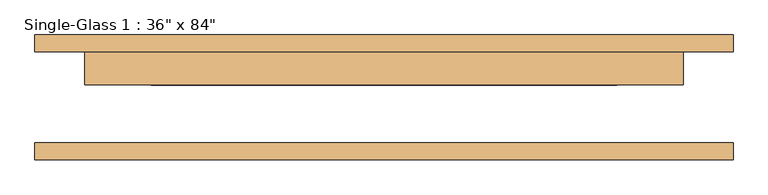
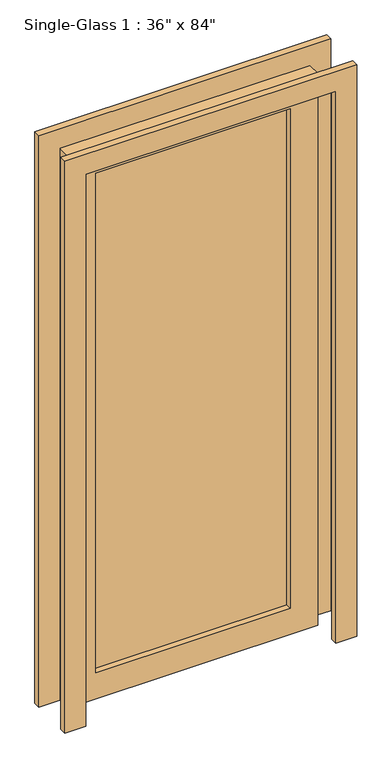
"""IFC4 building model written with IfcOpenShell, lengths in millimetres: door geometry."""

from ifc_helpers import new_model, si_unit, frame, origin, place, context, project, spatial, polyline, outline, extrude, source, transform, mapped, element, save


def door_e49b49a8(model_context):
    return source(origin(), model_context, "Body", "SweptSolid", [
        extrude(outline(polyline([(2133.6, 457.2), (0.0, 457.2), (0.0, 533.4), (2209.8, 533.4), (2209.8, -533.4), (0.0, -533.4), (0.0, -457.2), (2133.6, -457.2), (2133.6, 457.2)])), frame((0.0, -95.25, 0.0), z_axis=(0.0, 1.0, 0.0), x_axis=(0.0, 0.0, 1.0)), (0.0, 0.0, 1.0), 25.4),
        extrude(outline(polyline([(2133.6, 457.2), (0.0, 457.2), (0.0, 533.4), (2209.8, 533.4), (2209.8, -533.4), (0.0, -533.4), (0.0, -457.2), (2133.6, -457.2), (2133.6, 457.2)])), frame((0.0, 69.85, 0.0), z_axis=(0.0, 1.0, 0.0), x_axis=(0.0, 0.0, 1.0)), (0.0, 0.0, 1.0), 25.4),
        extrude(outline(polyline([(355.6, 41.275), (-355.6, 41.275), (-355.6, 47.625), (355.6, 47.625), (355.6, 41.275)])), frame((0.0, 0.0, 101.6), z_axis=(0.0, 0.0, 1.0), x_axis=(1.0, 0.0, 0.0)), (0.0, 0.0, 1.0), 1930.4),
        extrude(outline(polyline([(2133.6, 457.2), (2133.6, -457.2), (0.0, -457.2), (0.0, 457.2), (2133.6, 457.2)]), holes=[polyline([(2032.0, -355.6), (2032.0, 355.6), (101.6, 355.6), (101.6, -355.6), (2032.0, -355.6)])]), frame((0.0, 19.05, 0.0), z_axis=(0.0, 1.0, 0.0), x_axis=(0.0, 0.0, 1.0)), (0.0, 0.0, 1.0), 50.8),
    ])


if __name__ == "__main__":
    model = new_model("IFC4")
    model_context = context("Model", 3, world=origin())
    ifc_project = project(units=[si_unit("LENGTHUNIT", "METRE", prefix="MILLI")], contexts=[model_context])
    site = spatial("IfcSite", under=ifc_project)
    building = spatial("IfcBuilding", under=site)
    placement = place(None, origin())
    door_shape = door_e49b49a8(model_context)
    element("IfcDoor", 1, ObjectType="Single-Glass 1 : 36\" x 84\"", at=placement, inside=building, context=model_context, shape_type="MappedRepresentation", body=[
        mapped(door_shape, transform((0.0, 0.0, 0.0), x_axis=(1.0, 0.0, 0.0), y_axis=(0.0, 1.0, 0.0), z_axis=(0.0, 0.0, 1.0))),
    ])
    save(model, "model.ifc")
